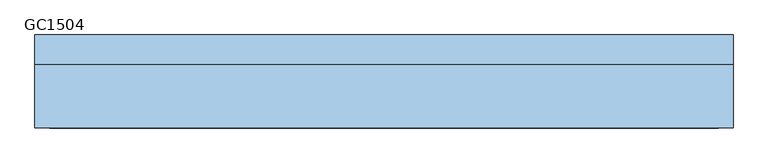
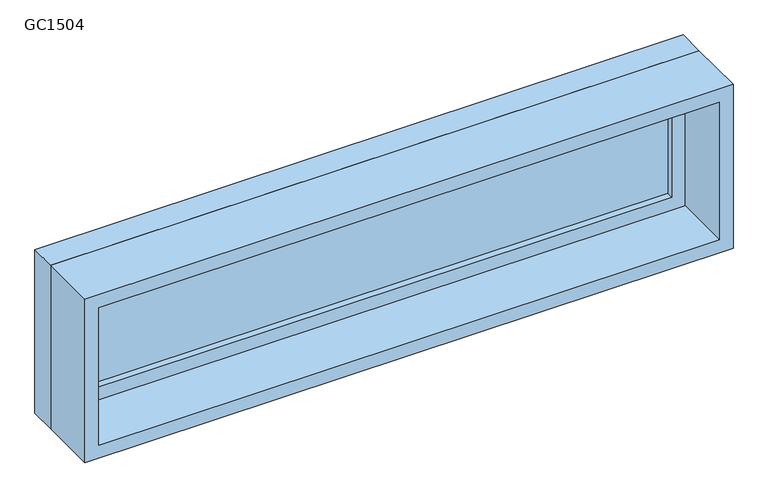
"""IFC4 building model written with IfcOpenShell, lengths in millimetres: window geometry, 固定 : GC1504."""

from ifc_helpers import new_model, si_unit, frame, origin, place, context, project, spatial, polyline, outline, extrude, source, transform, mapped, element, save


def gc1504_f34aab0b(model_context):
    return source(origin(), model_context, "Body", "SweptSolid", [
        extrude(outline(polyline([(-687.0, 78.0), (687.0, 78.0), (687.0, 66.0), (-687.0, 66.0), (-687.0, 78.0)])), frame((0.0, 0.0, 978.0), z_axis=(0.0, 0.0, 1.0), x_axis=(1.0, 0.0, 0.0)), (0.0, 0.0, 1.0), 274.0),
        extrude(outline(polyline([(1296.0, -731.0), (934.0, -731.0), (934.0, 731.0), (1296.0, 731.0), (1296.0, -731.0)]), holes=[polyline([(1252.0, -687.0), (1252.0, 687.0), (978.0, 687.0), (978.0, -687.0), (1252.0, -687.0)])]), frame((0.0, 50.0, 0.0), z_axis=(0.0, 1.0, 0.0), x_axis=(0.0, 0.0, 1.0)), (0.0, 0.0, 1.0), 44.0),
        extrude(outline(polyline([(1315.0, -750.0), (915.0, -750.0), (915.0, 750.0), (1315.0, 750.0), (1315.0, -750.0)]), holes=[polyline([(1296.0, -731.0), (1296.0, 731.0), (934.0, 731.0), (934.0, -731.0), (1296.0, -731.0)])]), frame((0.0, 50.0, 0.0), z_axis=(0.0, 1.0, 0.0), x_axis=(0.0, 0.0, 1.0)), (0.0, 0.0, 1.0), 63.0),
        extrude(outline(polyline([(1315.0, -750.0), (915.0, -750.0), (915.0, 750.0), (1315.0, 750.0), (1315.0, -750.0)]), holes=[polyline([(1283.0, -718.0), (1283.0, 718.0), (947.0, 718.0), (947.0, -718.0), (1283.0, -718.0)])]), frame((0.0, -87.0, 0.0), z_axis=(0.0, 1.0, 0.0), x_axis=(0.0, 0.0, 1.0)), (0.0, 0.0, 1.0), 137.0),
    ])


if __name__ == "__main__":
    model = new_model("IFC4")
    model_context = context("Model", 3, world=origin())
    ifc_project = project(units=[si_unit("LENGTHUNIT", "METRE", prefix="MILLI")], contexts=[model_context])
    site = spatial("IfcSite", under=ifc_project)
    building = spatial("IfcBuilding", under=site)
    placement = place(None, origin())
    gc1504_shape = gc1504_f34aab0b(model_context)
    element("IfcWindow", 1, ObjectType="固定 : GC1504", at=placement, inside=building, context=model_context, shape_type="MappedRepresentation", body=[
        mapped(gc1504_shape, transform((0.0, 0.0, 0.0), x_axis=(1.0, 0.0, 0.0), y_axis=(0.0, 1.0, 0.0), z_axis=(0.0, 0.0, 1.0))),
    ])
    save(model, "model.ifc")
